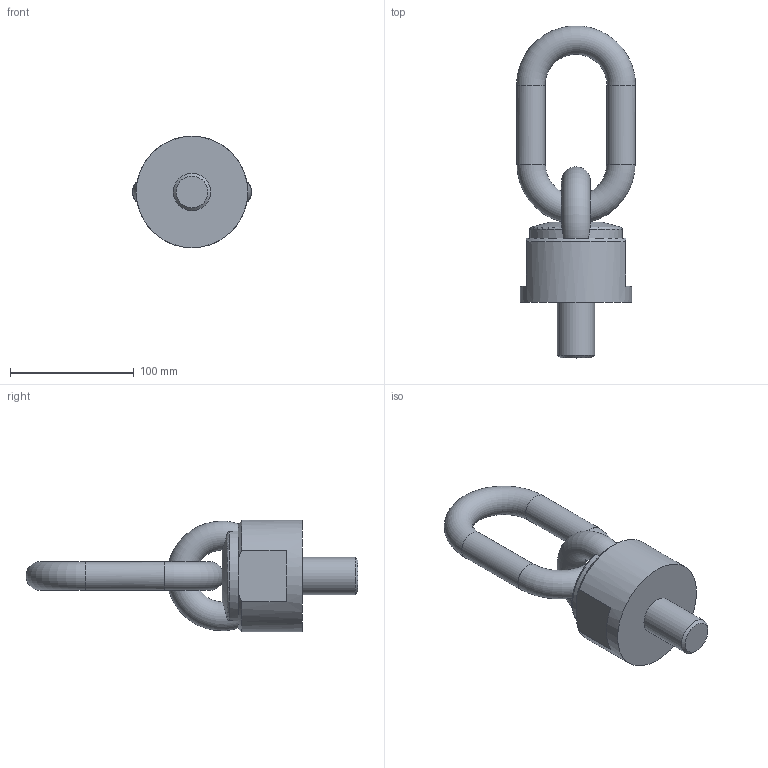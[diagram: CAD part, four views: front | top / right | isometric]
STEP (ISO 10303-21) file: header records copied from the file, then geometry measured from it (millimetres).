
FILE_DESCRIPTION( ( 'STEP AP203' ), '1' );
FILE_NAME( 'p:/temp/worker_11/temp/app_52_0201906261455417900694010e898ce_000000_00_00_000000/format_4/C800X0803045.stp', '2019-06-26T12:55:45', ( '' ), ( '' ), ' ', 'PARTsolutions', ' ' );
FILE_SCHEMA( ( 'CONFIG_CONTROL_DESIGN' ) );
Length unit declared in the file: millimetre
Products named in the file (1): _C800X0803045
Bounding box: 96 x 267.85 x 90 mm (x, y, z)
Volume: 594817.4 mm3; surface area: 65605.2 mm2
Topology: 1 solids, 1 shells, 28 faces, 70 edges, 44 vertices
Faces by surface type: plane 12, cylinder 6, torus 5, cone 5
Full cylindrical faces by diameter (mm): 23 x2, 30 x1, 90 x1
Entity records: 1190 total; most frequent: CARTESIAN_POINT 540, DIRECTION 122, ORIENTED_EDGE 116, EDGE_CURVE 58, AXIS2_PLACEMENT_3D 57, EDGE_LOOP 42, VERTEX_POINT 41, FACE_OUTER_BOUND 35
